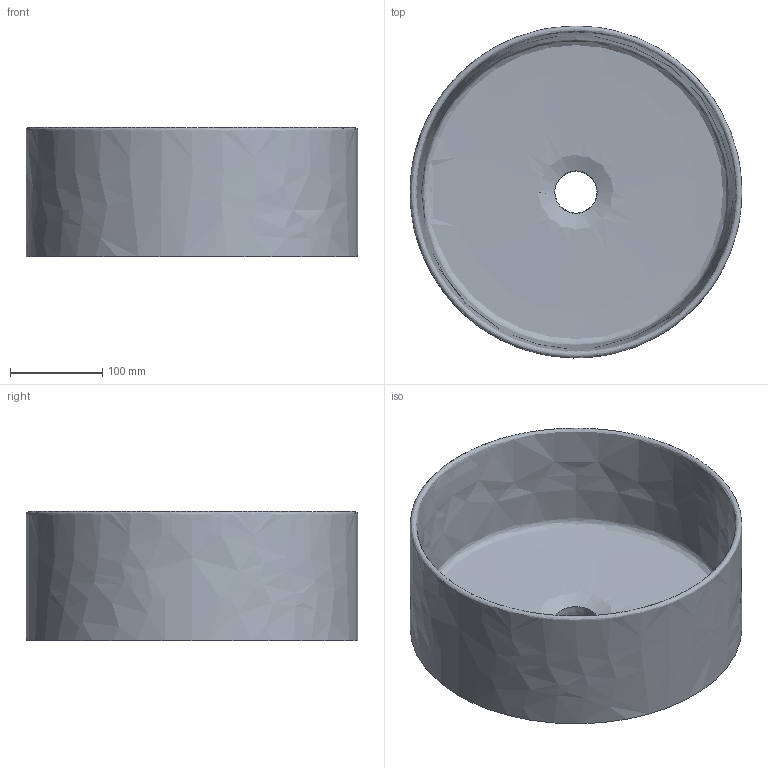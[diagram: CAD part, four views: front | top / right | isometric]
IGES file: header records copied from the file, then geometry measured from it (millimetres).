
Global section: file name: C:\Users\DE NITTO FULVIO\Desktop\Nic\2017\Maggio\Collezione Ovvio\Ovvio Lavabo Tondo 36\Modello 3D\Ovvio Lavabo Tondo 36.igs; native system: Rhinoceros ( Oct 24 2012 ); preprocessor: Trout Lake IGES 012 Oct 24 2012; date: 170505.155217; units: millimetre
Bounding box: 360 x 360 x 140 mm (x, y, z)
Surface area: 474347.5 mm2 (no closed solid volume)
Topology: 0 solids, 0 shells, 3 faces, 9 edges, 6 vertices
Faces by surface type: bspline 3
